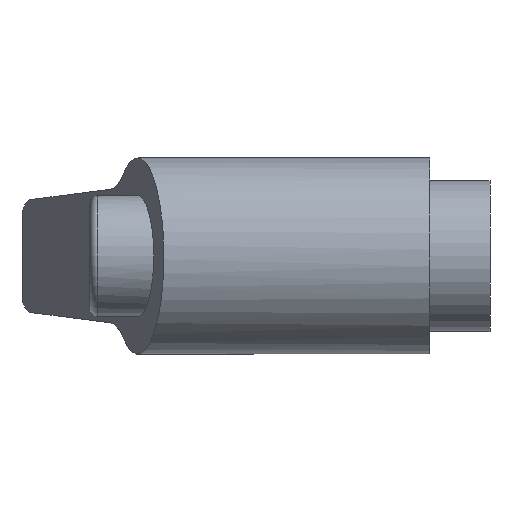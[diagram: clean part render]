
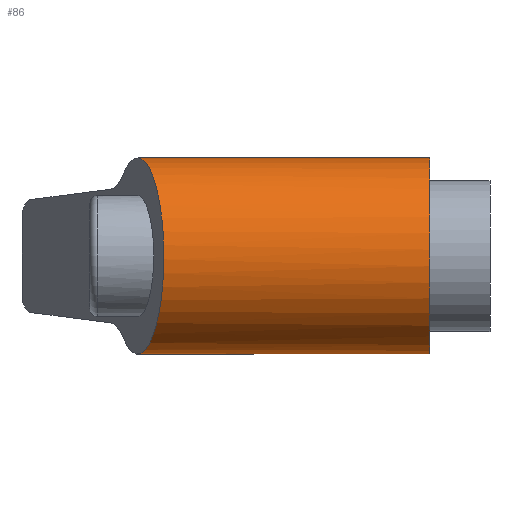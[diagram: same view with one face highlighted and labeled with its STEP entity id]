
A CAD part, left-side view. The second image highlights one B-rep face of the part: STEP entity #86.
In plain terms, the highlighted cylindrical face has radius 6.5 mm (diameter 13 mm), a full revolution.
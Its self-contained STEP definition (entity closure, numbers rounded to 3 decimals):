
#86 = ADVANCED_FACE( '', ( #127, #128 ), #129, .T. );
#127 = FACE_OUTER_BOUND( '', #185, .T. );
#128 = FACE_OUTER_BOUND( '', #186, .T. );
#129 = CYLINDRICAL_SURFACE( '', #187, 6.5 );
#185 = EDGE_LOOP( '', ( #293, #294, #295, #296 ) );
#186 = EDGE_LOOP( '', ( #297 ) );
#187 = AXIS2_PLACEMENT_3D( '', #298, #299, #300 );
#293 = ORIENTED_EDGE( '', *, *, #424, .T. );
#294 = ORIENTED_EDGE( '', *, *, #425, .T. );
#295 = ORIENTED_EDGE( '', *, *, #422, .F. );
#296 = ORIENTED_EDGE( '', *, *, #399, .F. );
#297 = ORIENTED_EDGE( '', *, *, #426, .T. );
#298 = CARTESIAN_POINT( '', ( 0., 27., 0. ) );
#299 = DIRECTION( '', ( 0., 1., 0. ) );
#300 = DIRECTION( '', ( 0., 0., -1. ) );
#399 = EDGE_CURVE( '', #458, #460, #461, .T. );
#422 = EDGE_CURVE( '', #460, #502, #503, .T. );
#424 = EDGE_CURVE( '', #458, #505, #506, .T. );
#425 = EDGE_CURVE( '', #505, #502, #507, .T. );
#426 = EDGE_CURVE( '', #508, #508, #509, .T. );
#458 = VERTEX_POINT( '', #549 );
#460 = VERTEX_POINT( '', #551 );
#461 = ELLIPSE( '', #552, 6.729, 6.5 );
#502 = VERTEX_POINT( '', #708 );
#503 = LINE( '', #709, #710 );
#505 = VERTEX_POINT( '', #723 );
#506 = LINE( '', #724, #725 );
#507 = CIRCLE( '', #726, 6.5 );
#508 = VERTEX_POINT( '', #727 );
#509 = CIRCLE( '', #728, 6.5 );
#549 = CARTESIAN_POINT( '', ( 3.588, 20.306, -5.42 ) );
#551 = CARTESIAN_POINT( '', ( 3.588, 20.306, 5.42 ) );
#552 = AXIS2_PLACEMENT_3D( '', #807, #808, #809 );
#708 = CARTESIAN_POINT( '', ( 3.588, 10.15, 5.42 ) );
#709 = CARTESIAN_POINT( '', ( 3.588, 27., 5.42 ) );
#710 = VECTOR( '', #835, 1000. );
#723 = CARTESIAN_POINT( '', ( 3.588, 10.15, -5.42 ) );
#724 = CARTESIAN_POINT( '', ( 3.588, 27., -5.42 ) );
#725 = VECTOR( '', #836, 1000. );
#726 = AXIS2_PLACEMENT_3D( '', #837, #838, #839 );
#727 = CARTESIAN_POINT( '', ( 6.5, 0., 0. ) );
#728 = AXIS2_PLACEMENT_3D( '', #840, #841, #842 );
#807 = CARTESIAN_POINT( '', ( 0., 19.344, 0. ) );
#808 = DIRECTION( '', ( -0.259, 0.966, 0. ) );
#809 = DIRECTION( '', ( -0.966, -0.259, 0. ) );
#835 = DIRECTION( '', ( 0., -1., 0. ) );
#836 = DIRECTION( '', ( 0., -1., 0. ) );
#837 = CARTESIAN_POINT( '', ( 0., 10.15, 0. ) );
#838 = DIRECTION( '', ( 0., -1., 0. ) );
#839 = DIRECTION( '', ( 1., 0., 0. ) );
#840 = CARTESIAN_POINT( '', ( 0., 0., 0. ) );
#841 = DIRECTION( '', ( 0., 1., 0. ) );
#842 = DIRECTION( '', ( 1., 0., 0. ) );
